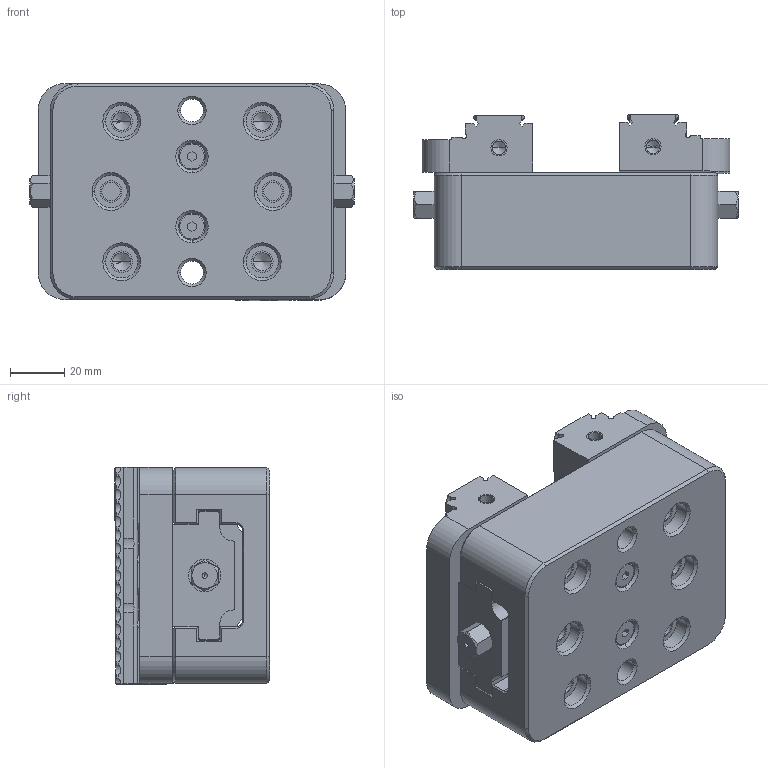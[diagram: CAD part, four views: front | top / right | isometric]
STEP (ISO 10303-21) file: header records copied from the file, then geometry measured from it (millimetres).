
FILE_DESCRIPTION((''),'2;1');
FILE_NAME('FG_VC_SCV_SCV80NP001_ASM','2026-03-05T10:22:40',('Admin'),(''),'CREO PARAMETRIC BY PTC INC, 2025010','CREO PARAMETRIC BY PTC INC, 2025010','');
FILE_SCHEMA(('CONFIG_CONTROL_DESIGN'));
Length unit declared in the file: millimetre
Products named in the file (3): LEAD_SCREW_ASM; JAW_ASM; FG_VC_SCV_SCV80NP001_ASM
Assembly tree (3 placements, depth 2):
  FG_VC_SCV_SCV80NP001_ASM
    LEAD_SCREW_ASM
    JAW_ASM  x2
Bounding box: 120 x 57.42 x 80.35 mm (x, y, z)
Volume: 343696.3 mm3; surface area: 104561.4 mm2
Topology: 3 solids, 64 shells, 1416 faces, 3967 edges, 2640 vertices
Faces by surface type: plane 586, cylinder 463, extrusion 160, cone 124, bspline 61, torus 22
Entity records: 40605 total; most frequent: CARTESIAN_POINT 14347, ORIENTED_EDGE 5726, DIRECTION 4811, EDGE_CURVE 2919, VERTEX_POINT 1953, AXIS2_PLACEMENT_3D 1633, VECTOR 1545, LINE 1385
